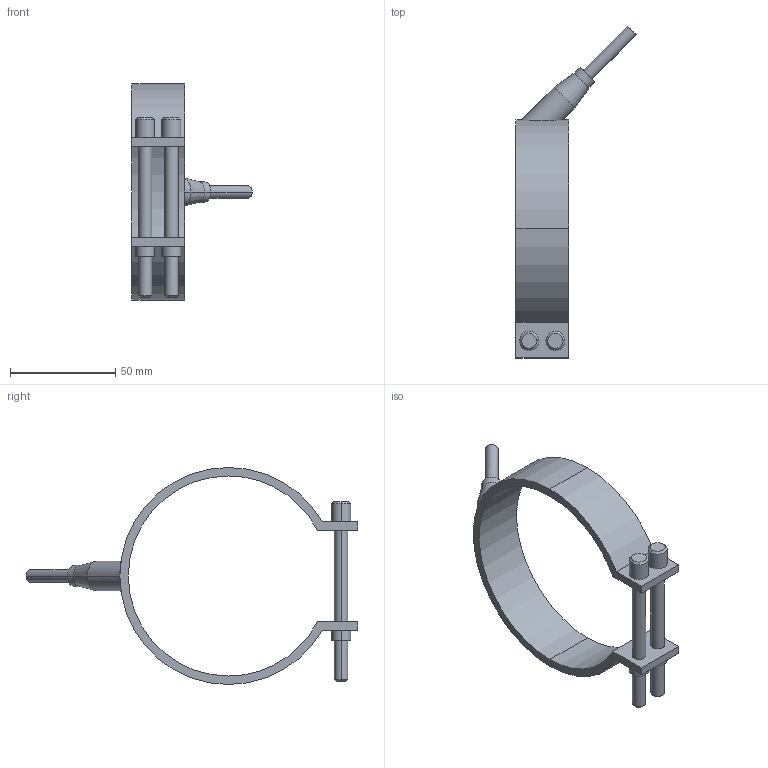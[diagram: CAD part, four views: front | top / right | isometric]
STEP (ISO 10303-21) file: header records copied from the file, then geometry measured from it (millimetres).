
FILE_DESCRIPTION(('CATIA V5 STEP Exchange'),'2;1');
FILE_NAME('C:\Users\Utente\Desktop\IO LAVORO\3D X SITO CF\X SITO\PLASTICA\RF1\29095025.stp','2021-03-29T17:55:30+00:00',('none'),('none'),'CATIA Version 5 Release 20 GA (IN-10)','CATIA V5 STEP AP203','none');
FILE_SCHEMA(('CONFIG_CONTROL_DESIGN'));
Length unit declared in the file: millimetre
Products named in the file (1): 29095025
Bounding box: 57.05 x 157.55 x 103 mm (x, y, z)
Volume: 40322.6 mm3; surface area: 22259.1 mm2
Topology: 1 solids, 1 shells, 54 faces, 123 edges, 79 vertices
Faces by surface type: cylinder 28, plane 16, cone 10
Entity records: 1728 total; most frequent: CARTESIAN_POINT 496, ORIENTED_EDGE 246, DIRECTION 213, EDGE_CURVE 123, AXIS2_PLACEMENT_3D 106, VERTEX_POINT 79, EDGE_LOOP 66, VECTOR 56
